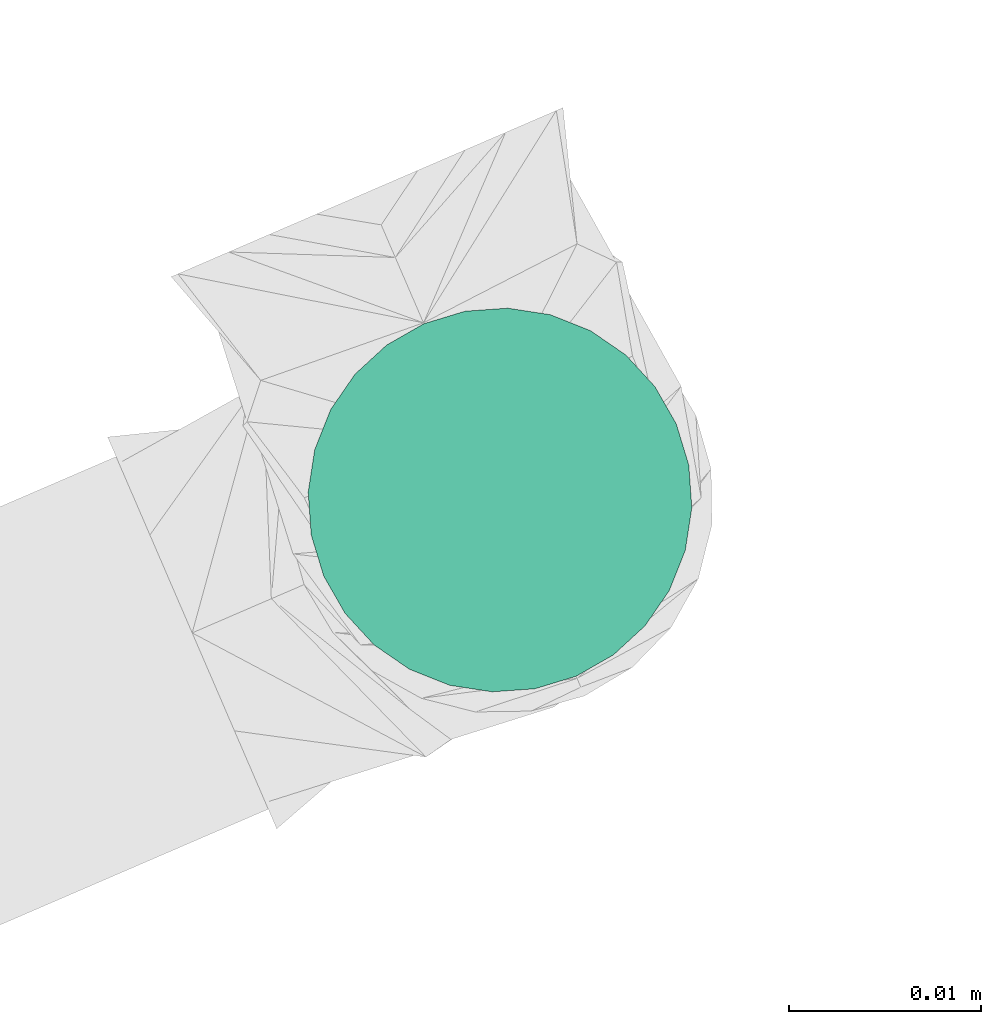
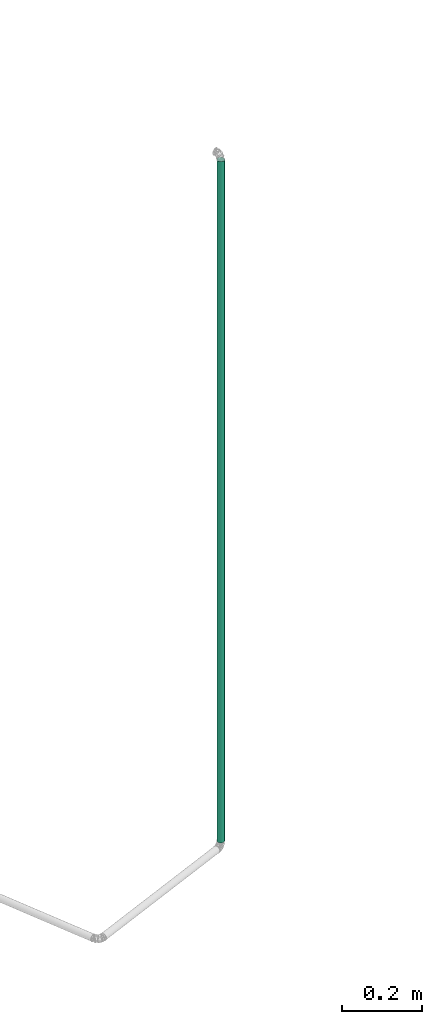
# One storey, part 5 of 26: 1 pipe segment.
"""IFC4 building model written with IfcOpenShell, lengths in metres."""

from ifc_helpers import new_model, entity, si_unit, converted_unit, derived_unit, direction, frame, origin, place, context, subcontext, project, spatial, arc, indexed_curve, outline, extrude, material, type_object, element, save


model = new_model("IFC4")

# Units and contexts
model_context = context("Model", 3, precision=1e-05, world=origin(), true_north=direction((6.12323399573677e-17, 1.0)))
body_context = subcontext(model_context, "Body", "Model", "MODEL_VIEW")
ifc_project = project(units=[si_unit("LENGTHUNIT", "METRE"), si_unit("AREAUNIT", "SQUARE_METRE"), si_unit("VOLUMEUNIT", "CUBIC_METRE"), si_unit("PRESSUREUNIT", "PASCAL"), derived_unit("VOLUMETRICFLOWRATEUNIT", [(si_unit("LENGTHUNIT", "METRE", prefix="DECI"), 3), (si_unit("TIMEUNIT", "SECOND"), -1)]), converted_unit("PLANEANGLEUNIT", "DEGREE", entity("IfcPlaneAngleMeasure", 0.0174532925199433), si_unit("PLANEANGLEUNIT", "RADIAN"), dimensions=[0, 0, 0, 0, 0, 0, 0])], contexts=[model_context])

# Site, building, storey
site_placement = place(None, origin())
site = spatial("IfcSite", under=ifc_project, at=site_placement, Name="Default", CompositionType="ELEMENT")
building_placement = place(site_placement, frame((24.575451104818, -55.896759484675, 317.15), z_axis=(0.0, 0.0, 1.0), x_axis=(-0.396377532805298, 0.918087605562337, 0.0)))
building = spatial("IfcBuilding", under=site, at=building_placement, CompositionType="ELEMENT")
storey_placement = place(building_placement, origin())
storey = spatial("IfcBuildingStorey", under=building, at=storey_placement, Name="Nivel 1", CompositionType="ELEMENT", Elevation=0.0)

# Pipe segment
ifc_material = material(Name="Cobre", Category="Undefined")
pipe_segment_type = type_object("IfcPipeSegmentType", Name="Pipe Types:GAS", PredefinedType="NOTDEFINED")
pipe_segment_placement = place(storey_placement, origin())
element("IfcPipeSegment", 1, at=pipe_segment_placement, inside=storey, type_object=pipe_segment_type, material=ifc_material, Name="Pipe Types:GAS", ObjectType="Pipe Types:GAS", PredefinedType="NOTDEFINED", context=body_context, shape_type="SweptSolid", body=[
    extrude(outline(indexed_curve([(0.00999999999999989, -4.33146851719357e-15), (0.00707106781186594, 0.00707106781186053), (0.0, 0.00999999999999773), (-0.00707106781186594, 0.00707106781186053), (-0.00999999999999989, -4.33146851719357e-15), (-0.00707106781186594, -0.00707106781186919), (0.0, -0.0100000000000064), (0.00707106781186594, -0.00707106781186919)], segments=[arc(1, 2, 3), arc(3, 4, 5), arc(5, 6, 7), arc(7, 8, 1)], self_intersect=False)), frame((9.21853904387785, 38.6931002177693, 3.01746249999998)), (0.0, 0.0, 1.0), 2.07057500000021),
])

save(model, "model.ifc")
